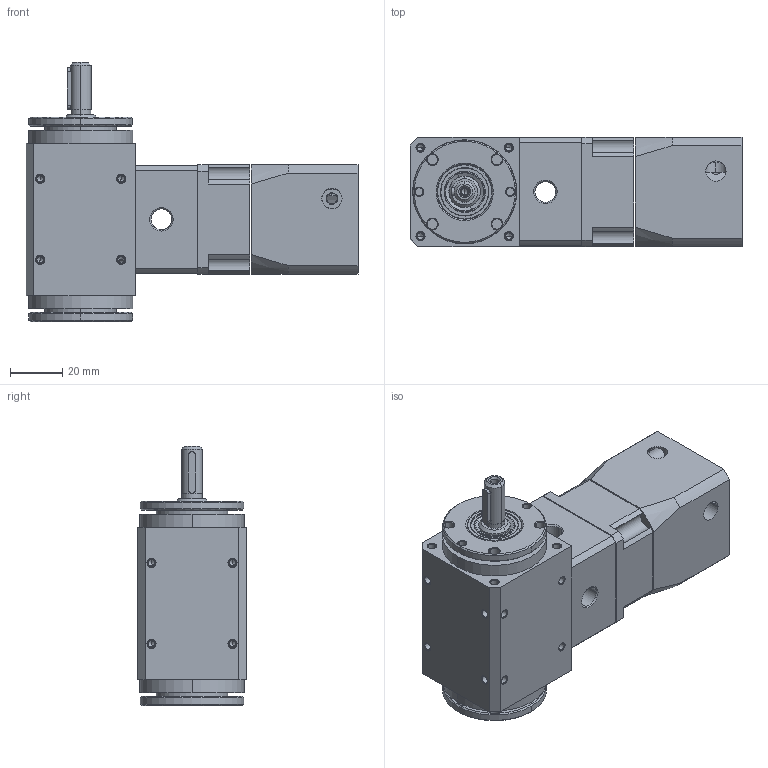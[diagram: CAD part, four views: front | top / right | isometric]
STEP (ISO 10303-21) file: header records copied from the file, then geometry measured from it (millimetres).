
FILE_DESCRIPTION (( 'STEP AP203' ), '1' );
FILE_NAME ('WS42SF-¡¼-8-30-46-M4(1¡G1°tGNP40L1).STEP', '2014-09-25T09:23:52', ( ' ' ), ( '' ), 'SwSTEP 2.0', 'SolidWorks 2012', '' );
FILE_SCHEMA (( 'CONFIG_CONTROL_DESIGN' ));
Length unit declared in the file: millimetre
Products named in the file (1): WS42SF-¡¼-8-30-46-M4(1¡G1°tGNP40L1)
Bounding box: 127.5 x 42 x 99.5 mm (x, y, z)
Volume: 163733.1 mm3; surface area: 81484.6 mm2
Topology: 11 solids, 11 shells, 1098 faces, 2656 edges, 1587 vertices
Faces by surface type: cylinder 536, cone 301, plane 197, torus 56, bspline 8
Entity records: 37606 total; most frequent: CARTESIAN_POINT 11944, DIRECTION 5693, ORIENTED_EDGE 5136, EDGE_CURVE 2568, AXIS2_PLACEMENT_3D 2352, VERTEX_POINT 1587, EDGE_LOOP 1317, CIRCLE 1261
